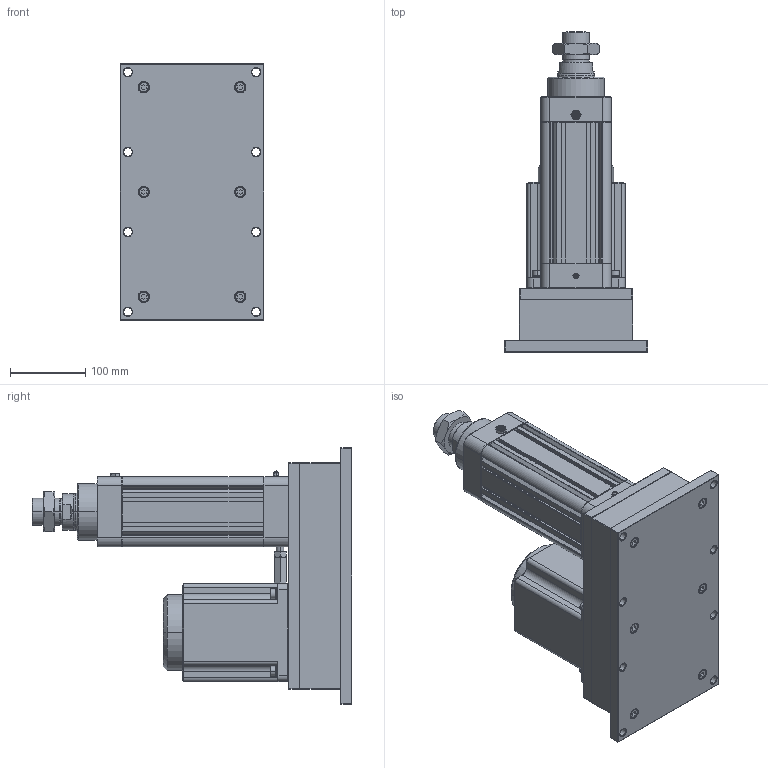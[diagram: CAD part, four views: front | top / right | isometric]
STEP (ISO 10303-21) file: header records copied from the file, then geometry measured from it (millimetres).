
FILE_DESCRIPTION((''),'2;1');
FILE_NAME('HE80-D-P_ASM','2020-04-23T',('ASUS20200'),(''),'CREO PARAMETRIC BY PTC INC, 2014190','CREO PARAMETRIC BY PTC INC, 2014190','');
FILE_SCHEMA(('CONFIG_CONTROL_DESIGN'));
Length unit declared in the file: millimetre
Products named in the file (25): HE80-D-P-001-X1; HE80-D-P-002-X1; HE80-D-P-003-X1; 30304J; YZ-M6X1; SLM-01; JDB506030; HE80-100-D-P-X1_ASM; HE80-P-010-X1-130N; 130ST-M10010; M10X25; HE80-P-009-X1-130N; HE80-P-013-X1-130N; TD-8; M8X35; M8X75; LM-M8-7-5; M10X1-25-40; LM-M10-30; LM-M10; HE80-D-P-005-X1; HE80-D-P-004-X1; HE80-D-P-008-X1; LGLM-M10-25; HE80-D-P_ASM
Assembly tree (45 placements, depth 3):
  HE80-D-P_ASM
    HE80-100-D-P-X1_ASM
      HE80-D-P-001-X1
      HE80-D-P-002-X1
      HE80-D-P-003-X1
      30304J  x2
      YZ-M6X1
      SLM-01
      JDB506030
    HE80-P-010-X1-130N
    130ST-M10010
    M10X25  x4
    HE80-P-009-X1-130N
    HE80-P-013-X1-130N
    TD-8  x4
    M8X35  x4
    M8X75  x6
    LM-M8-7-5  x4
    M10X1-25-40
    LM-M10-30
    LM-M10
    HE80-D-P-005-X1
    HE80-D-P-004-X1
    HE80-D-P-008-X1
    LGLM-M10-25  x4
Bounding box: 190 x 424 x 340 mm (x, y, z)
Volume: 5529694.5 mm3; surface area: 945406.4 mm2
Topology: 44 solids, 74 shells, 2489 faces, 5754 edges, 3429 vertices
Faces by surface type: plane 923, cone 794, cylinder 640, torus 102, sphere 26, bspline 4
Entity records: 57870 total; most frequent: CARTESIAN_POINT 11190, DIRECTION 10223, ORIENTED_EDGE 9098, EDGE_CURVE 4600, AXIS2_PLACEMENT_3D 3871, VERTEX_POINT 2742, VECTOR 2481, LINE 2481
